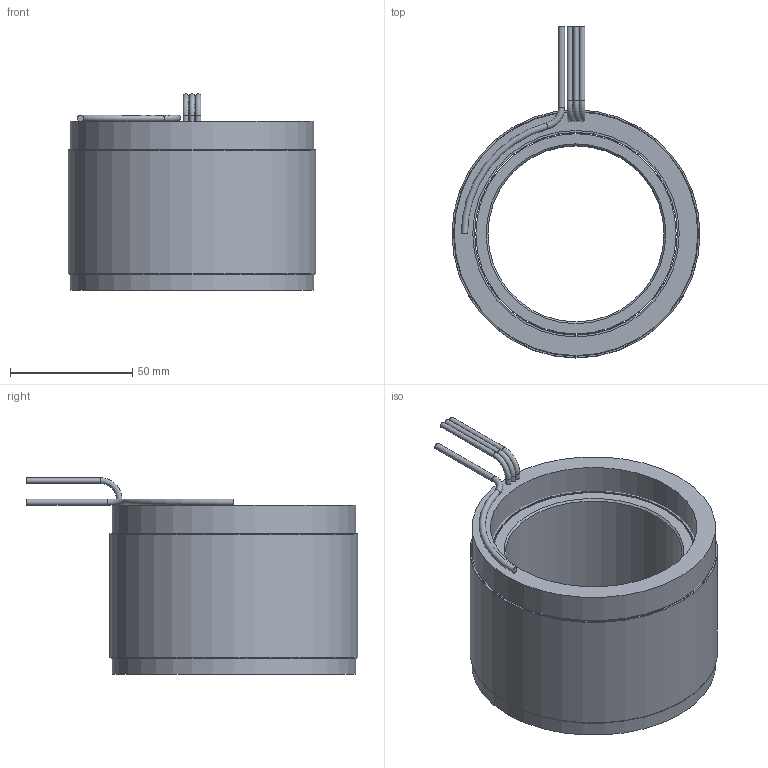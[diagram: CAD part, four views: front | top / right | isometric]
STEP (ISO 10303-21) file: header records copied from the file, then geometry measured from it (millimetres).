
FILE_DESCRIPTION (( 'STEP AP214' ), '1' );
FILE_NAME ('6100395-06.STEP', '2020-12-15T17:36:13', ( '' ), ( '' ), 'SwSTEP 2.0', 'SolidWorks 2016', '' );
FILE_SCHEMA (( 'AUTOMOTIVE_DESIGN' ));
Length unit declared in the file: inch
Products named in the file (10): 4600568-00; 4250383-XX_4250383-06; 4400104-00; COMP4500561-XX(COIL)_COMP4500561-06(COIL); 6100395-06; 4150181-XX_4150181-06; 4450192-XX_4450192-06; 4500561-XX_4500561-06
Assembly tree (10 placements, depth 4):
  6100395-06
    4250383-XX_4250383-06
      4150181-XX_4150181-06
    4500561-XX_4500561-06
      4450192-XX_4450192-06
        4450192-XX_4450192-06
        4400104-00
        4400104-00
        4600568-00  x2
      COMP4500561-XX(COIL)_COMP4500561-06(COIL)
Bounding box: 101.6 x 135.89 x 80.39 mm (x, y, z)
Volume: 352248.5 mm3; surface area: 128895.1 mm2
Topology: 8 solids, 8 shells, 47 faces, 74 edges, 46 vertices
Faces by surface type: cylinder 21, plane 19, torus 5, cone 2
Full cylindrical faces by diameter (mm): 2.286 x6, 2.54 x1, 72.136 x1, 82.042 x1, 83.058 x5, 84.582 x1, 99.822 x1, 100.33 x2, 101.6 x3
Entity records: 1305 total; most frequent: DIRECTION 202, CARTESIAN_POINT 143, AXIS2_PLACEMENT_3D 101, EDGE_LOOP 84, ORIENTED_EDGE 84, FACE_OUTER_BOUND 67, ADVANCED_FACE 43, VERTEX_POINT 42
